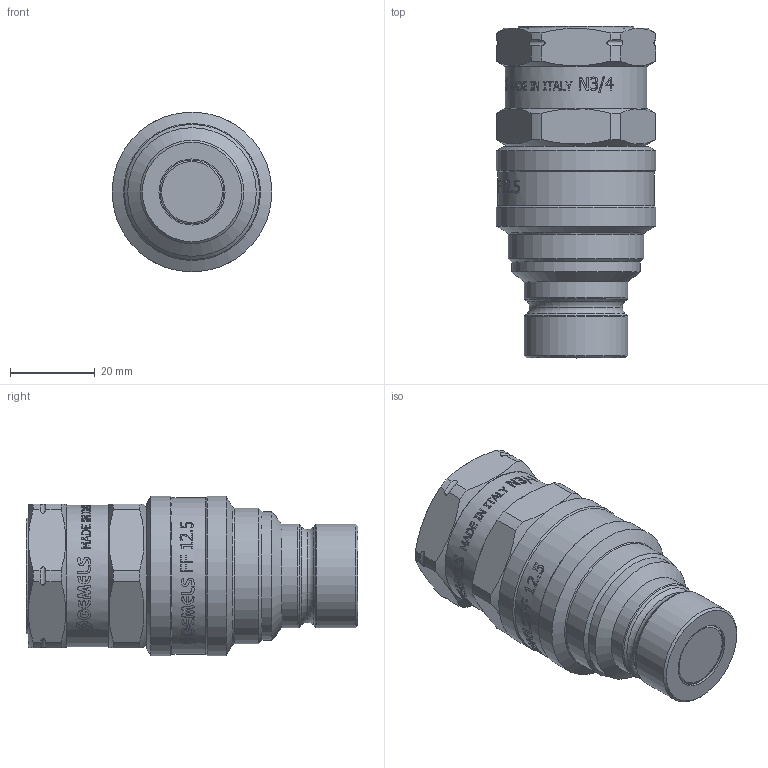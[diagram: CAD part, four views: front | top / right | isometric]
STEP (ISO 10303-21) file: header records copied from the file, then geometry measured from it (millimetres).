
FILE_DESCRIPTION(/* description */ (''),/* implementation_level */ '2;1');
FILE_NAME(/* name */ 'NC05N040000.stp',/* time_stamp */ '2024-08-26T13:53:49+02:00',/* author */ ('thomas.belotti'),/* organization */ (''),/* preprocessor_version */ 'ST-DEVELOPER v20',/* originating_system */ 'Autodesk Inventor 2024',/* authorisation */ '');
FILE_SCHEMA (('AUTOMOTIVE_DESIGN { 1 0 10303 214 3 1 1 }'));
Length unit declared in the file: millimetre
Products named in the file (1): Parte5
Bounding box: 37.8 x 78.5 x 37.8 mm (x, y, z)
Volume: 57572.1 mm3; surface area: 13298.9 mm2
Topology: 1 solids, 3 shells, 1118 faces, 3170 edges, 2103 vertices
Faces by surface type: bspline 782, plane 223, cylinder 85, cone 16, torus 12
Full cylindrical faces by diameter (mm): 15.65 x1, 22 x1, 22.631 x1, 23 x1, 24 x1, 24.5 x2, 27.5 x1, 30.45 x1, 32 x2, 32.3 x1, 33.5 x1, 37 x1, 37.7 x1, 37.8 x1
Entity records: 49145 total; most frequent: CARTESIAN_POINT 24438, ORIENTED_EDGE 6340, EDGE_CURVE 3170, DIRECTION 2393, VERTEX_POINT 2103, B_SPLINE_CURVE_WITH_KNOTS 1712, EDGE_LOOP 1177, LINE 1149
